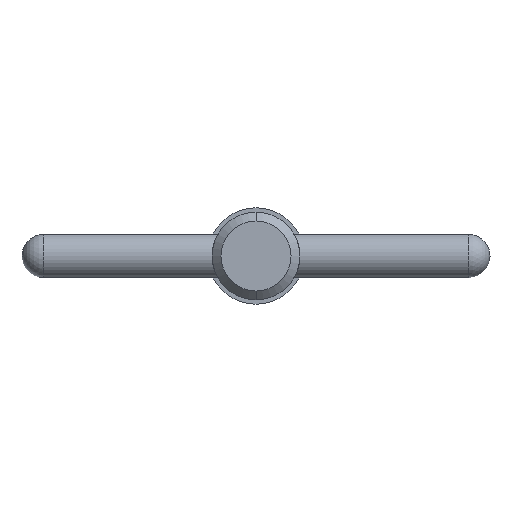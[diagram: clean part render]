
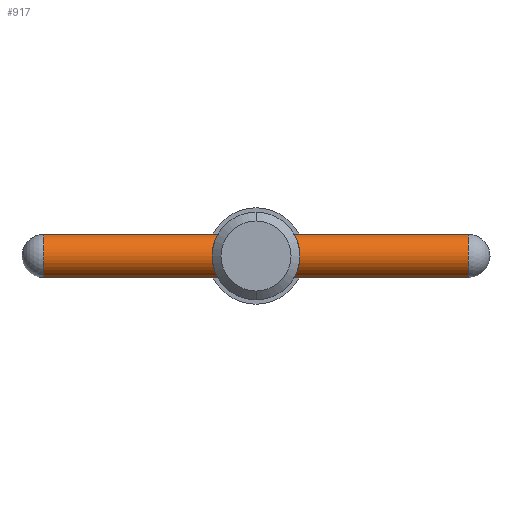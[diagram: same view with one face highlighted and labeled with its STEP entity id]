
A CAD part, left-side view. The second image highlights one B-rep face of the part: STEP entity #917.
In plain terms, the highlighted cylindrical face has radius 1.19 mm (diameter 2.38 mm), a partial arc.
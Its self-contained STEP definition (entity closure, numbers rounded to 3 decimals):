
#34 = EDGE_CURVE ( 'NONE', #72, #395, #124, .T. ) ;
#59 = VECTOR ( 'NONE', #553, 1000. ) ;
#63 = AXIS2_PLACEMENT_3D ( 'NONE', #881, #208, #277 ) ;
#72 = VERTEX_POINT ( 'NONE', #265 ) ;
#73 = AXIS2_PLACEMENT_3D ( 'NONE', #707, #311, #465 ) ;
#98 = ORIENTED_EDGE ( 'NONE', *, *, #34, .F. ) ;
#124 = LINE ( 'NONE', #324, #615 ) ;
#208 = DIRECTION ( 'NONE',  ( 0., 1., 0. ) ) ;
#227 = AXIS2_PLACEMENT_3D ( 'NONE', #876, #352, #344 ) ;
#244 = VERTEX_POINT ( 'NONE', #842 ) ;
#265 = CARTESIAN_POINT ( 'NONE',  ( 0., 11.51, 1.19 ) ) ;
#277 = DIRECTION ( 'NONE',  ( 0., 0., -1. ) ) ;
#311 = DIRECTION ( 'NONE',  ( 0., -1., 0. ) ) ;
#324 = CARTESIAN_POINT ( 'NONE',  ( 0., 12.7, 1.19 ) ) ;
#344 = DIRECTION ( 'NONE',  ( 0., 0., -1. ) ) ;
#352 = DIRECTION ( 'NONE',  ( 0., -1., 0. ) ) ;
#395 = VERTEX_POINT ( 'NONE', #795 ) ;
#404 = DIRECTION ( 'NONE',  ( 0., -1., 0. ) ) ;
#429 = CYLINDRICAL_SURFACE ( 'NONE', #227, 1.19 ) ;
#435 = CIRCLE ( 'NONE', #63, 1.19 ) ;
#465 = DIRECTION ( 'NONE',  ( 0., 0., -1. ) ) ;
#470 = CARTESIAN_POINT ( 'NONE',  ( 0., 11.51, -1.19 ) ) ;
#553 = DIRECTION ( 'NONE',  ( 0., -1., 0. ) ) ;
#559 = LINE ( 'NONE', #766, #59 ) ;
#600 = VERTEX_POINT ( 'NONE', #470 ) ;
#615 = VECTOR ( 'NONE', #404, 1000. ) ;
#624 = EDGE_LOOP ( 'NONE', ( #98, #678, #870, #846 ) ) ;
#658 = EDGE_CURVE ( 'NONE', #72, #600, #901, .T. ) ;
#661 = EDGE_CURVE ( 'NONE', #600, #244, #559, .T. ) ;
#678 = ORIENTED_EDGE ( 'NONE', *, *, #658, .T. ) ;
#707 = CARTESIAN_POINT ( 'NONE',  ( 0., 11.51, 0. ) ) ;
#742 = FACE_OUTER_BOUND ( 'NONE', #624, .T. ) ;
#766 = CARTESIAN_POINT ( 'NONE',  ( 0., 12.7, -1.19 ) ) ;
#795 = CARTESIAN_POINT ( 'NONE',  ( 0., -11.51, 1.19 ) ) ;
#842 = CARTESIAN_POINT ( 'NONE',  ( 0., -11.51, -1.19 ) ) ;
#846 = ORIENTED_EDGE ( 'NONE', *, *, #972, .T. ) ;
#870 = ORIENTED_EDGE ( 'NONE', *, *, #661, .T. ) ;
#876 = CARTESIAN_POINT ( 'NONE',  ( 0., 12.7, 0. ) ) ;
#881 = CARTESIAN_POINT ( 'NONE',  ( 0., -11.51, 0. ) ) ;
#901 = CIRCLE ( 'NONE', #73, 1.19 ) ;
#917 = ADVANCED_FACE ( 'NONE', ( #742 ), #429, .T. ) ;
#972 = EDGE_CURVE ( 'NONE', #244, #395, #435, .T. ) ;
